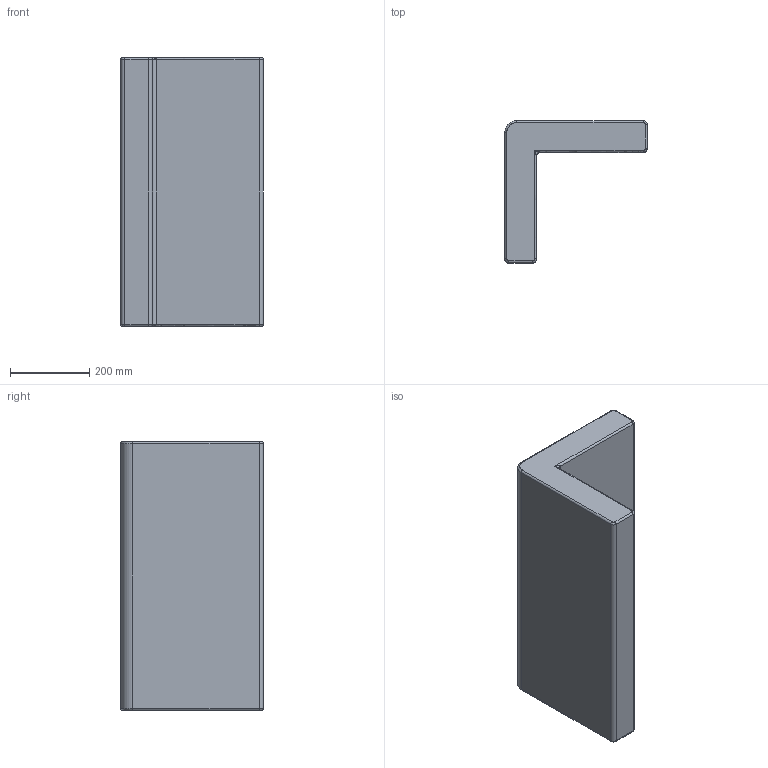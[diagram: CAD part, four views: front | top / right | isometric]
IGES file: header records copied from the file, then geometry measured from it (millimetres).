
Start section: SolidWorks IGES file using NURBS representation for surfaces
Global section: file name: D:\VICCARBE\PRODUCTOS\19-MASS\04-MODELADOS (PLANOS)\SOLIDWORKS\PIEZAS\Arms\01-IGES\VICCARBE_Mass_arm_36.IGS; native system: SolidWorks 2009; preprocessor: SolidWorks 2009; author: RUBEN; date: 110908.155626; units: millimetre
Bounding box: 360 x 360 x 680 mm (x, y, z)
Surface area: 1051668.7 mm2 (no closed solid volume)
Topology: 0 solids, 0 shells, 38 faces, 284 edges, 282 vertices
Faces by surface type: bspline 38
